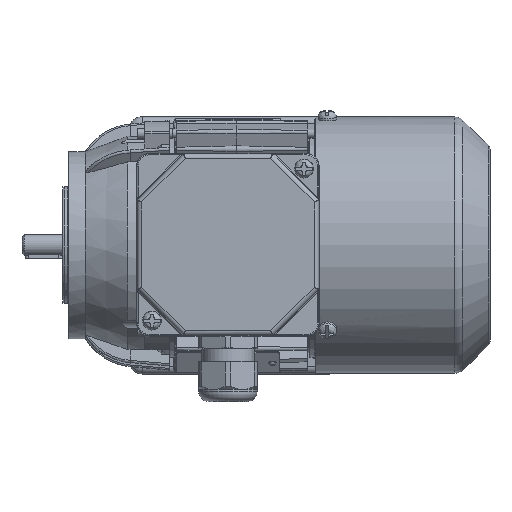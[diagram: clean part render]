
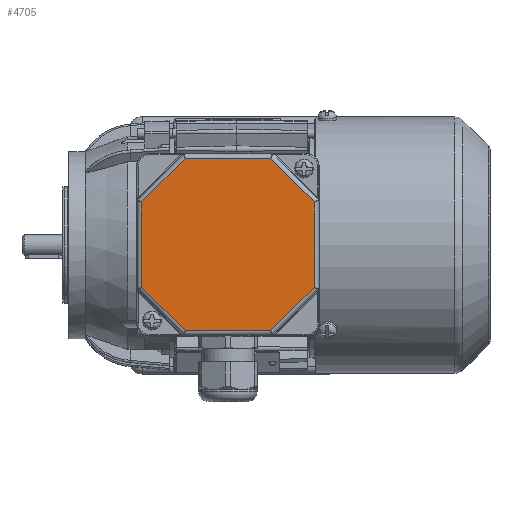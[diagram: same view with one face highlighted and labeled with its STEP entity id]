
A CAD part, top view. The second image highlights one B-rep face of the part: STEP entity #4705.
In plain terms, the highlighted planar face has unit normal (0, 0, 1).
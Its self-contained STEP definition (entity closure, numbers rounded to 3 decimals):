
#4705 = ADVANCED_FACE( '', ( #9822 ), #9823, .T. );
#9822 = FACE_OUTER_BOUND( '', #19519, .T. );
#9823 = PLANE( '', #19520 );
#19519 = EDGE_LOOP( '', ( #33843, #33844, #33845, #33846, #33847, #33848, #33849, #33850 ) );
#19520 = AXIS2_PLACEMENT_3D( '', #33851, #33852, #33853 );
#33843 = ORIENTED_EDGE( '', *, *, #40568, .T. );
#33844 = ORIENTED_EDGE( '', *, *, #39834, .T. );
#33845 = ORIENTED_EDGE( '', *, *, #42601, .T. );
#33846 = ORIENTED_EDGE( '', *, *, #40852, .T. );
#33847 = ORIENTED_EDGE( '', *, *, #44364, .T. );
#33848 = ORIENTED_EDGE( '', *, *, #42329, .T. );
#33849 = ORIENTED_EDGE( '', *, *, #43093, .T. );
#33850 = ORIENTED_EDGE( '', *, *, #40161, .T. );
#33851 = CARTESIAN_POINT( '', ( -39., 39., 12. ) );
#33852 = DIRECTION( '', ( 0., 0., 1. ) );
#33853 = DIRECTION( '', ( 1., 0., 0. ) );
#39834 = EDGE_CURVE( '', #46689, #46690, #46691, .T. );
#40161 = EDGE_CURVE( '', #47268, #47266, #47269, .T. );
#40568 = EDGE_CURVE( '', #47266, #46689, #47970, .F. );
#40852 = EDGE_CURVE( '', #46305, #48437, #48438, .T. );
#42329 = EDGE_CURVE( '', #46913, #47724, #50752, .T. );
#42601 = EDGE_CURVE( '', #46690, #46305, #51151, .F. );
#43093 = EDGE_CURVE( '', #47724, #47268, #51877, .F. );
#44364 = EDGE_CURVE( '', #48437, #46913, #53536, .F. );
#46305 = VERTEX_POINT( '', #56064 );
#46689 = VERTEX_POINT( '', #56669 );
#46690 = VERTEX_POINT( '', #56670 );
#46691 = LINE( '', #56671, #56672 );
#46913 = VERTEX_POINT( '', #57133 );
#47266 = VERTEX_POINT( '', #57803 );
#47268 = VERTEX_POINT( '', #57805 );
#47269 = LINE( '', #57806, #57807 );
#47724 = VERTEX_POINT( '', #58666 );
#47970 = LINE( '', #59217, #59218 );
#48437 = VERTEX_POINT( '', #60002 );
#48438 = LINE( '', #60003, #60004 );
#50752 = LINE( '', #64505, #64506 );
#51151 = LINE( '', #65486, #65487 );
#51877 = LINE( '', #66663, #66664 );
#53536 = LINE( '', #70334, #70335 );
#56064 = CARTESIAN_POINT( '', ( -18.255, 36.825, 12. ) );
#56669 = CARTESIAN_POINT( '', ( 36.825, 18.255, 12. ) );
#56670 = CARTESIAN_POINT( '', ( 18.255, 36.825, 12. ) );
#56671 = CARTESIAN_POINT( '', ( 17.679, 37.401, 12. ) );
#56672 = VECTOR( '', #73363, 1000. );
#57133 = CARTESIAN_POINT( '', ( -36.825, -18.255, 12. ) );
#57803 = CARTESIAN_POINT( '', ( 36.825, -18.255, 12. ) );
#57805 = CARTESIAN_POINT( '', ( 18.255, -36.825, 12. ) );
#57806 = CARTESIAN_POINT( '', ( 37.401, -17.679, 12. ) );
#57807 = VECTOR( '', #73763, 1000. );
#58666 = CARTESIAN_POINT( '', ( -18.255, -36.825, 12. ) );
#59217 = CARTESIAN_POINT( '', ( 36.825, 19.069, 12. ) );
#59218 = VECTOR( '', #74275, 1000. );
#60002 = CARTESIAN_POINT( '', ( -36.825, 18.255, 12. ) );
#60003 = CARTESIAN_POINT( '', ( -37.401, 17.679, 12. ) );
#60004 = VECTOR( '', #74629, 1000. );
#64505 = CARTESIAN_POINT( '', ( -17.679, -37.401, 12. ) );
#64506 = VECTOR( '', #76351, 1000. );
#65486 = CARTESIAN_POINT( '', ( -19.069, 36.825, 12. ) );
#65487 = VECTOR( '', #76644, 1000. );
#66663 = CARTESIAN_POINT( '', ( 19.069, -36.825, 12. ) );
#66664 = VECTOR( '', #77379, 1000. );
#70334 = CARTESIAN_POINT( '', ( -36.825, -19.069, 12. ) );
#70335 = VECTOR( '', #78801, 1000. );
#73363 = DIRECTION( '', ( -0.707, 0.707, 0. ) );
#73763 = DIRECTION( '', ( 0.707, 0.707, 0. ) );
#74275 = DIRECTION( '', ( 0., -1., 0. ) );
#74629 = DIRECTION( '', ( -0.707, -0.707, 0. ) );
#76351 = DIRECTION( '', ( 0.707, -0.707, 0. ) );
#76644 = DIRECTION( '', ( 1., 0., 0. ) );
#77379 = DIRECTION( '', ( -1., 0., 0. ) );
#78801 = DIRECTION( '', ( 0., 1., 0. ) );
